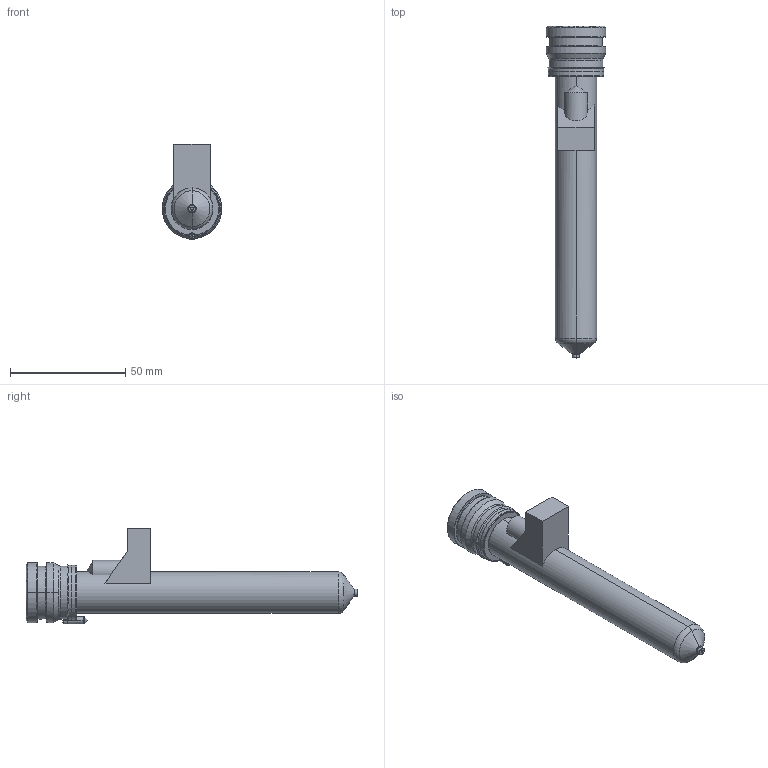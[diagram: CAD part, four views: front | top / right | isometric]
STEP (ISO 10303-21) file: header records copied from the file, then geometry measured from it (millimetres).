
FILE_DESCRIPTION((''),'2;1');
FILE_NAME('MPN-08-24-VP3-126-M','2026-02-05T13:32:56',('UPTIO'),('Thermoplay S.p.A.'),'CREO PARAMETRIC BY PTC INC, 2023494','CREO PARAMETRIC BY PTC INC, 2023494','');
FILE_SCHEMA(('CONFIG_CONTROL_DESIGN','SHAPE_APPEARANCE_LAYERS_GROUPS'));
Length unit declared in the file: millimetre
Products named in the file (1): MPN-08-24-VP3-126-M
Bounding box: 26 x 144.1 x 41.5 mm (x, y, z)
Volume: 27925.2 mm3; surface area: 37010.2 mm2
Topology: 2 solids, 3 shells, 571 faces, 1494 edges, 922 vertices
Faces by surface type: cylinder 178, plane 143, bspline 103, torus 68, cone 66, sphere 7, extrusion 6
Entity records: 30042 total; most frequent: CARTESIAN_POINT 13532, ORIENTED_EDGE 2970, DIRECTION 2631, EDGE_CURVE 1485, AXIS2_PLACEMENT_3D 1029, VERTEX_POINT 922, EDGE_LOOP 601, VECTOR 573
